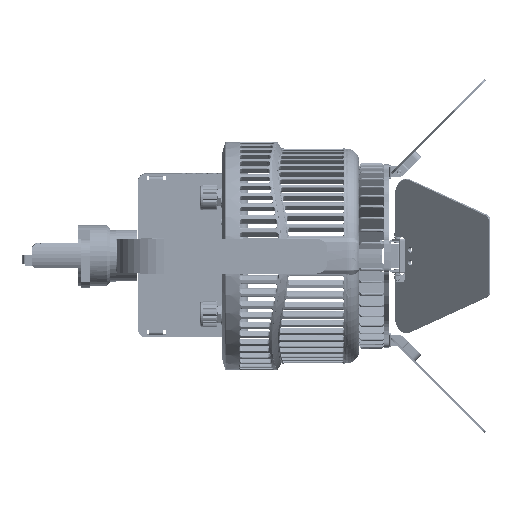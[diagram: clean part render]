
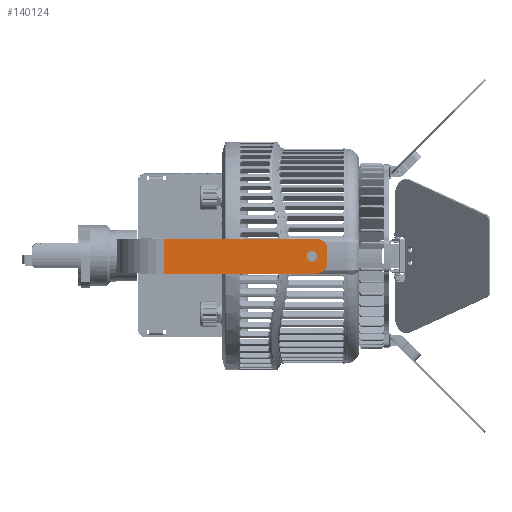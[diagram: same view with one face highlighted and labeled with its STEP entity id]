
A CAD part, left-side view. The second image highlights one B-rep face of the part: STEP entity #140124.
In plain terms, the highlighted planar face has unit normal (-1, 0, -0.003).
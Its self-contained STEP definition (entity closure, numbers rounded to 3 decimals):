
#3842 = ORIENTED_EDGE ( 'NONE', *, *, #292170, .F. ) ;
#4639 = CARTESIAN_POINT ( 'NONE',  ( -73.1, 10., -88.5 ) ) ;
#4885 = VERTEX_POINT ( 'NONE', #70474 ) ;
#6204 = AXIS2_PLACEMENT_3D ( 'NONE', #205282, #251211, #276562 ) ;
#6706 = EDGE_LOOP ( 'NONE', ( #183903, #259102, #260199, #221767, #177115, #69517 ) ) ;
#10874 = DIRECTION ( 'NONE',  ( 0., 0., 1. ) ) ;
#11261 = AXIS2_PLACEMENT_3D ( 'NONE', #223868, #57643, #51385 ) ;
#13984 = CARTESIAN_POINT ( 'NONE',  ( -73.1, 4., 2. ) ) ;
#24987 = FACE_OUTER_BOUND ( 'NONE', #6706, .T. ) ;
#28006 = DIRECTION ( 'NONE',  ( 0., 0., -1. ) ) ;
#34618 = DIRECTION ( 'NONE',  ( -1., 0., 0. ) ) ;
#35881 = VERTEX_POINT ( 'NONE', #309440 ) ;
#39005 = CIRCLE ( 'NONE', #281713, 6. ) ;
#49054 = LINE ( 'NONE', #4639, #274970 ) ;
#51288 = EDGE_CURVE ( 'NONE', #122386, #111409, #226781, .T. ) ;
#51385 = DIRECTION ( 'NONE',  ( 0., 0., 1. ) ) ;
#57643 = DIRECTION ( 'NONE',  ( -1., 0., 0. ) ) ;
#60556 = CARTESIAN_POINT ( 'NONE',  ( -73.1, 10., 2. ) ) ;
#65391 = VECTOR ( 'NONE', #28006, 1000. ) ;
#66953 = DIRECTION ( 'NONE',  ( 0., -1., 0. ) ) ;
#68075 = ORIENTED_EDGE ( 'NONE', *, *, #122599, .F. ) ;
#69517 = ORIENTED_EDGE ( 'NONE', *, *, #104516, .T. ) ;
#70474 = CARTESIAN_POINT ( 'NONE',  ( -73.1, -10., -93. ) ) ;
#72429 = LINE ( 'NONE', #73989, #65391 ) ;
#73989 = CARTESIAN_POINT ( 'NONE',  ( -73.1, -10., 2. ) ) ;
#75742 = EDGE_LOOP ( 'NONE', ( #3842, #68075 ) ) ;
#77079 = CARTESIAN_POINT ( 'NONE',  ( -73.1, 0., -7. ) ) ;
#77360 = DIRECTION ( 'NONE',  ( 0., 0., -1. ) ) ;
#104516 = EDGE_CURVE ( 'NONE', #122386, #35881, #112490, .T. ) ;
#111409 = VERTEX_POINT ( 'NONE', #247872 ) ;
#112267 = CARTESIAN_POINT ( 'NONE',  ( -73.1, -4., -4. ) ) ;
#112490 = CIRCLE ( 'NONE', #11261, 6. ) ;
#118081 = VERTEX_POINT ( 'NONE', #220245 ) ;
#122386 = VERTEX_POINT ( 'NONE', #13984 ) ;
#122599 = EDGE_CURVE ( 'NONE', #312776, #240037, #275268, .T. ) ;
#125776 = CARTESIAN_POINT ( 'NONE',  ( -73.1, 0., -3.9 ) ) ;
#128486 = VECTOR ( 'NONE', #66953, 1000. ) ;
#128609 = AXIS2_PLACEMENT_3D ( 'NONE', #77079, #219570, #225782 ) ;
#138319 = CARTESIAN_POINT ( 'NONE',  ( -73.1, 10., -93. ) ) ;
#140124 = ADVANCED_FACE ( 'NONE', ( #241907, #24987 ), #271860, .T. ) ;
#142881 = CARTESIAN_POINT ( 'NONE',  ( -73.1, 10., -93. ) ) ;
#158234 = DIRECTION ( 'NONE',  ( 0., 0., 1. ) ) ;
#175222 = CIRCLE ( 'NONE', #266082, 3.1 ) ;
#176970 = VERTEX_POINT ( 'NONE', #138319 ) ;
#177115 = ORIENTED_EDGE ( 'NONE', *, *, #51288, .F. ) ;
#183903 = ORIENTED_EDGE ( 'NONE', *, *, #306526, .T. ) ;
#194356 = EDGE_CURVE ( 'NONE', #118081, #111409, #39005, .T. ) ;
#202985 = DIRECTION ( 'NONE',  ( 0., -1., 0. ) ) ;
#205282 = CARTESIAN_POINT ( 'NONE',  ( -73.1, 10., 2. ) ) ;
#218951 = CARTESIAN_POINT ( 'NONE',  ( -73.1, 0., -10.1 ) ) ;
#219570 = DIRECTION ( 'NONE',  ( -1., 0., 0. ) ) ;
#220245 = CARTESIAN_POINT ( 'NONE',  ( -73.1, -10., -4. ) ) ;
#221767 = ORIENTED_EDGE ( 'NONE', *, *, #194356, .T. ) ;
#223262 = EDGE_CURVE ( 'NONE', #176970, #4885, #309094, .T. ) ;
#223868 = CARTESIAN_POINT ( 'NONE',  ( -73.1, 4., -4. ) ) ;
#225782 = DIRECTION ( 'NONE',  ( 0., 0., 1. ) ) ;
#226781 = LINE ( 'NONE', #60556, #274121 ) ;
#233652 = EDGE_CURVE ( 'NONE', #118081, #4885, #72429, .T. ) ;
#240037 = VERTEX_POINT ( 'NONE', #125776 ) ;
#241907 = FACE_BOUND ( 'NONE', #75742, .T. ) ;
#247872 = CARTESIAN_POINT ( 'NONE',  ( -73.1, -4., 2. ) ) ;
#249930 = CARTESIAN_POINT ( 'NONE',  ( -73.1, 0., -7. ) ) ;
#251211 = DIRECTION ( 'NONE',  ( -1., 0., 0. ) ) ;
#259102 = ORIENTED_EDGE ( 'NONE', *, *, #223262, .T. ) ;
#260199 = ORIENTED_EDGE ( 'NONE', *, *, #233652, .F. ) ;
#266082 = AXIS2_PLACEMENT_3D ( 'NONE', #249930, #34618, #10874 ) ;
#271860 = PLANE ( 'NONE',  #6204 ) ;
#274121 = VECTOR ( 'NONE', #202985, 1000. ) ;
#274970 = VECTOR ( 'NONE', #77360, 1000. ) ;
#275268 = CIRCLE ( 'NONE', #128609, 3.1 ) ;
#276562 = DIRECTION ( 'NONE',  ( 0., 0., 1. ) ) ;
#281713 = AXIS2_PLACEMENT_3D ( 'NONE', #112267, #306962, #158234 ) ;
#292170 = EDGE_CURVE ( 'NONE', #240037, #312776, #175222, .T. ) ;
#306526 = EDGE_CURVE ( 'NONE', #35881, #176970, #49054, .T. ) ;
#306962 = DIRECTION ( 'NONE',  ( -1., 0., 0. ) ) ;
#309094 = LINE ( 'NONE', #142881, #128486 ) ;
#309440 = CARTESIAN_POINT ( 'NONE',  ( -73.1, 10., -4. ) ) ;
#312776 = VERTEX_POINT ( 'NONE', #218951 ) ;
